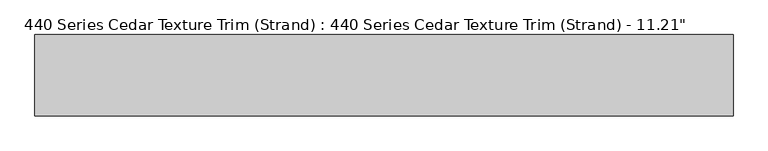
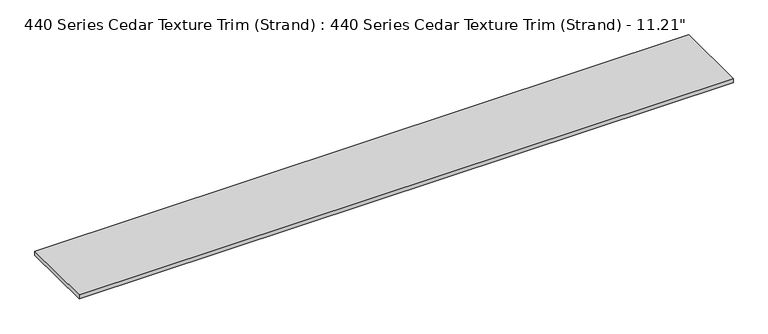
"""IFC4 building model written with IfcOpenShell, lengths in millimetres: proxy geometry."""

from ifc_helpers import new_model, si_unit, origin, origin_with_axes, place, context, project, spatial, polyline, outline, extrude, source, transform, mapped, element, save


def proxy_4220b802(model_context):
    return source(origin(), model_context, "Body", "SweptSolid", [
        extrude(outline(polyline([(2438.4, 0.0), (0.0, 0.0), (0.0, 284.7578125), (2438.4, 284.7578125), (2438.4, 0.0)])), origin_with_axes(), (0.0, 0.0, 1.0), 15.875),
    ])


if __name__ == "__main__":
    model = new_model("IFC4")
    model_context = context("Model", 3, world=origin())
    ifc_project = project(units=[si_unit("LENGTHUNIT", "METRE", prefix="MILLI")], contexts=[model_context])
    site = spatial("IfcSite", under=ifc_project)
    building = spatial("IfcBuilding", under=site)
    placement = place(None, origin())
    proxy_shape = proxy_4220b802(model_context)
    element("IfcBuildingElementProxy", 1, Name="440 Series Cedar Texture Trim (Strand) : 440 Series Cedar Texture Trim (Strand) - 11.21\"", ObjectType="440 Series Cedar Texture Trim (Strand) : 440 Series Cedar Texture Trim (Strand) - 11.21\"", at=placement, inside=building, context=model_context, shape_type="MappedRepresentation", body=[
        mapped(proxy_shape, transform((0.0, 0.0, 0.0), x_axis=(1.0, 0.0, 0.0), y_axis=(0.0, 1.0, 0.0), z_axis=(0.0, 0.0, 1.0))),
    ])
    save(model, "model.ifc")
